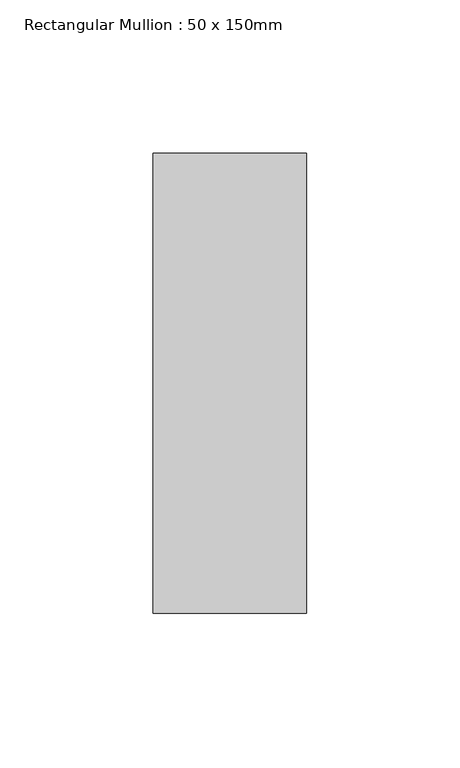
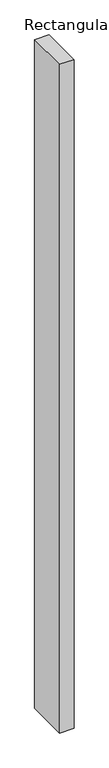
"""IFC4 building model written with IfcOpenShell, lengths in millimetres: member geometry, Rectangular Mullion : 50 x 150mm."""

import ifcopenshell
import ifcopenshell.guid

model = None  # the IFC model being written
_history = None  # IfcOwnerHistory: only IFC2X3 demands one
_inside = {}  # id of a spatial element -> (the spatial element, [elements in it])
_under = {}  # id of a project, library or spatial element -> (it, [spatial elements below it])
_declared = {}  # id of a project -> (the project, [libraries it declares])
_typed = {}  # id of a type object -> (the type object, [elements of that type])
_made_of = {}  # id of a material, layer set ... -> (it, [elements and type objects made of it])


def new_model(schema):
    """Start an empty IFC model of exactly this schema.

    Asked for "IFC4X3", IfcOpenShell would pick the latest addendum, in which some entities
    have other attributes; the version numbers below select the first issue.
    IFC2X3 requires an IfcOwnerHistory on every rooted entity: one is made here for all.
    """
    global model, _history
    if schema == "IFC4X3":
        model = ifcopenshell.file(schema_version=(4, 3, 0, 0))
    else:
        model = ifcopenshell.file(schema=schema)
    _inside.clear()
    _under.clear()
    _declared.clear()
    _typed.clear()
    _made_of.clear()
    _history = None
    if model.schema == "IFC2X3":
        org = make("IfcOrganization", Name="unknown")
        user = make(
            "IfcPersonAndOrganization",
            ThePerson=make("IfcPerson", FamilyName="unknown"),
            TheOrganization=org,
        )
        app = make(
            "IfcApplication",
            ApplicationDeveloper=org,
            Version="unknown",
            ApplicationFullName="unknown",
            ApplicationIdentifier="unknown",
        )
        _history = make(
            "IfcOwnerHistory",
            OwningUser=user,
            OwningApplication=app,
            ChangeAction="ADDED",
            CreationDate=0,
        )
    return model


def make(cls, **values):
    """One entity of the class cls with the attributes given. An attribute that is None is left unset."""
    return model.create_entity(
        cls, **{name: value for name, value in values.items() if value is not None}
    )


def rooted(cls, **values):
    """An entity with a GlobalId (a new one), such as an element, a storey or a relation."""
    return make(cls, GlobalId=ifcopenshell.guid.new(), OwnerHistory=_history, **values)


def si_unit(unit_type, name, prefix=None):
    """IfcSIUnit, for example si_unit("LENGTHUNIT", "METRE", prefix="MILLI")."""
    return make("IfcSIUnit", UnitType=unit_type, Prefix=prefix, Name=name)


def assignment(units):
    """IfcUnitAssignment: the units of a project."""
    return None if units is None else make("IfcUnitAssignment", Units=units)


def point(xyz):
    """IfcCartesianPoint."""
    return None if xyz is None else make("IfcCartesianPoint", Coordinates=xyz)


def direction(xyz):
    """IfcDirection."""
    return None if xyz is None else make("IfcDirection", DirectionRatios=xyz)


def frame(location, z_axis=None, x_axis=None):
    """IfcAxis2Placement3D, a coordinate frame: its origin and axes. An axis left out is left unset."""
    return make(
        "IfcAxis2Placement3D",
        Location=point(location),
        Axis=direction(z_axis),
        RefDirection=direction(x_axis),
    )


def origin():
    """The frame at (0, 0, 0) with its axes left unset."""
    return frame((0.0, 0.0, 0.0))


def place(relative_to, where):
    """IfcLocalPlacement: puts the frame where relative to a parent placement (None: the world)."""
    return make(
        "IfcLocalPlacement", PlacementRelTo=relative_to, RelativePlacement=where
    )


def context(
    kind, dimensions, precision=None, world=None, true_north=None, identifier=None
):
    """IfcGeometricRepresentationContext, for example the 3D "Model" context."""
    return make(
        "IfcGeometricRepresentationContext",
        ContextIdentifier=identifier,
        ContextType=kind,
        CoordinateSpaceDimension=dimensions,
        Precision=precision,
        WorldCoordinateSystem=world,
        TrueNorth=true_north,
    )


def project(units=None, contexts=None):
    """IfcProject with its units and contexts."""
    return rooted(
        "IfcProject",
        Name="project",
        RepresentationContexts=contexts,
        UnitsInContext=assignment(units),
    )


def spatial(cls, under=None, at=None, **own):
    """A site, building, storey or space (cls), placed at a placement, below another one or the project."""
    s = rooted(cls, ObjectPlacement=at, **own)
    if under is not None:
        _under.setdefault(under.id(), (under, []))[1].append(s)
    return s


def polyline(points):
    """IfcPolyline through the points."""
    return make("IfcPolyline", Points=[point(p) for p in points])


def outline(outer, holes=None, kind="AREA"):
    """IfcArbitraryClosedProfileDef: a profile drawn as a closed curve; with holes, ...WithVoids."""
    if holes is None:
        return make("IfcArbitraryClosedProfileDef", ProfileType=kind, OuterCurve=outer)
    return make(
        "IfcArbitraryProfileDefWithVoids",
        ProfileType=kind,
        OuterCurve=outer,
        InnerCurves=holes,
    )


def extrude(swept, where, along, depth):
    """IfcExtrudedAreaSolid: the profile swept, set in the frame where, extruded along a direction by depth."""
    return make(
        "IfcExtrudedAreaSolid",
        SweptArea=swept,
        Position=where,
        ExtrudedDirection=direction(along),
        Depth=depth,
    )


def shape(context_of_items, identifier, shape_type, items):
    """IfcShapeRepresentation: the items that make up one representation, for example the "Body"."""
    return make(
        "IfcShapeRepresentation",
        ContextOfItems=context_of_items,
        RepresentationIdentifier=identifier,
        RepresentationType=shape_type,
        Items=items,
    )


def source(mapping_origin, context_of_items, identifier, shape_type, items):
    """IfcRepresentationMap: a shape defined once, which mapped items show again and again."""
    return make(
        "IfcRepresentationMap",
        MappingOrigin=mapping_origin,
        MappedRepresentation=shape(context_of_items, identifier, shape_type, items),
    )


def transform(
    local_origin,
    x_axis=None,
    y_axis=None,
    z_axis=None,
    scale=None,
    scale2=None,
    scale3=None,
    uniform=True,
):
    """IfcCartesianTransformationOperator3D, or its non-uniform kind. x_axis, y_axis, z_axis: its Axis1, 2, 3."""
    if uniform:
        return make(
            "IfcCartesianTransformationOperator3D",
            Axis1=direction(x_axis),
            Axis2=direction(y_axis),
            LocalOrigin=point(local_origin),
            Scale=scale,
            Axis3=direction(z_axis),
        )
    return make(
        "IfcCartesianTransformationOperator3DnonUniform",
        Axis1=direction(x_axis),
        Axis2=direction(y_axis),
        LocalOrigin=point(local_origin),
        Scale=scale,
        Axis3=direction(z_axis),
        Scale2=scale2,
        Scale3=scale3,
    )


def mapped(mapping_source, mapping_target):
    """IfcMappedItem: shows the shape of a source again, moved by a transform."""
    return make(
        "IfcMappedItem", MappingSource=mapping_source, MappingTarget=mapping_target
    )


def made_of(thing, what):
    """Note that an element or type object is made of a material, layer set ...; save() writes the relation."""
    if what is not None:
        _made_of.setdefault(what.id(), (what, []))[1].append(thing)
    return thing


def element(
    cls,
    number,
    at=None,
    inside=None,
    cuts=None,
    type_object=None,
    material=None,
    context=None,
    identifier="Body",
    shape_type=None,
    held_by="IfcProductDefinitionShape",
    body=None,
    shapes=None,
    **own,
):
    """One element of the class cls, such as IfcWall. Its Tag is "e" and its number.

    at: its placement. inside: the storey or other place that contains it. cuts: it is an
    opening in that element (IfcRelVoidsElement). A single representation is given by context,
    identifier, shape_type and body (its items); several are given by shapes. held_by: the class
    of the entity that holds the representations. save() writes the other relations.
    """
    e = rooted(cls, Tag="e%d" % number, ObjectPlacement=at, **own)
    if body is not None:
        shapes = [shape(context, identifier, shape_type, body)]
    if shapes is not None:
        e.Representation = make(held_by, Representations=shapes)
    if inside is not None:
        _inside.setdefault(inside.id(), (inside, []))[1].append(e)
    if cuts is not None:
        rooted(
            "IfcRelVoidsElement", RelatingBuildingElement=cuts, RelatedOpeningElement=e
        )
    if type_object is not None:
        _typed.setdefault(type_object.id(), (type_object, []))[1].append(e)
    return made_of(e, material)


def aggregate(whole, parts):
    """IfcRelAggregates: a whole, such as a stair, and the parts it consists of."""
    return rooted("IfcRelAggregates", RelatingObject=whole, RelatedObjects=parts)


def save(model, path):
    """Write the relations noted so far, then the file.

    IfcRelAggregates (storeys below a building ...), IfcRelContainedInSpatialStructure (elements
    in a storey), IfcRelDefinesByType, IfcRelAssociatesMaterial and IfcRelDeclares: one each for
    every whole, place, type object, material and project.
    """
    for whole, parts in _under.values():
        aggregate(whole, parts)
    for where, things in _inside.values():
        rooted(
            "IfcRelContainedInSpatialStructure",
            RelatedElements=things,
            RelatingStructure=where,
        )
    for kind, things in _typed.values():
        rooted("IfcRelDefinesByType", RelatedObjects=things, RelatingType=kind)
    for what, things in _made_of.values():
        rooted("IfcRelAssociatesMaterial", RelatedObjects=things, RelatingMaterial=what)
    for by, libraries in _declared.values():
        rooted("IfcRelDeclares", RelatingContext=by, RelatedDefinitions=libraries)
    model.write(path)


def rectangular_mullion_50_x_150mm_5f09bd8f(model_context):
    return source(origin(), model_context, "Body", "SweptSolid", [
        extrude(outline(polyline([(0.0, 75.0), (0.0, -75.0), (-50.0, -75.0), (-50.0, 75.0), (0.0, 75.0)])), frame((0.0, 0.0, -2454.2601394), z_axis=(0.0, 0.0, 1.0), x_axis=(1.0, 0.0, 0.0)), (0.0, 0.0, 1.0), 2454.2601394),
    ])


if __name__ == "__main__":
    model = new_model("IFC4")
    model_context = context("Model", 3, world=origin())
    ifc_project = project(units=[si_unit("LENGTHUNIT", "METRE", prefix="MILLI")], contexts=[model_context])
    site = spatial("IfcSite", under=ifc_project)
    building = spatial("IfcBuilding", under=site)
    placement = place(None, origin())
    rectangular_mullion_50_x_150mm_shape = rectangular_mullion_50_x_150mm_5f09bd8f(model_context)
    element("IfcMember", 1, ObjectType="Rectangular Mullion : 50 x 150mm", at=placement, inside=building, context=model_context, shape_type="MappedRepresentation", body=[
        mapped(rectangular_mullion_50_x_150mm_shape, transform((0.0, 0.0, 0.0), x_axis=(1.0, 0.0, 0.0), y_axis=(0.0, 1.0, 0.0), z_axis=(0.0, 0.0, 1.0))),
    ])
    save(model, "model.ifc")
